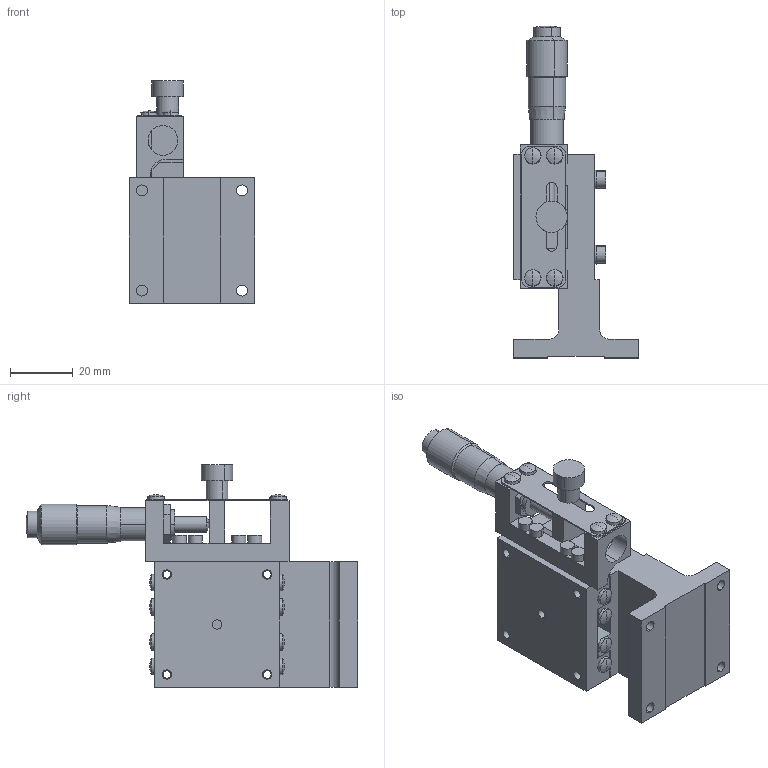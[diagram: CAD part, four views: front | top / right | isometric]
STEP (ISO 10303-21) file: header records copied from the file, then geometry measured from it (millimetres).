
FILE_DESCRIPTION (( 'STEP AP214' ), '1' );
FILE_NAME ('LZ‐4041‐S1‐2.STEP', '2007-08-28T12:25:57', ( '' ), ( '' ), 'SwSTEP 2.0', 'SolidWorks 2006303', '' );
FILE_SCHEMA (( 'AUTOMOTIVE_DESIGN' ));
Length unit declared in the file: millimetre
Products named in the file (3): LZ40S120－2_ﾃﾞﾌｫﾙﾄ; LZ‐4041‐S1‐2; LZ40S120－1_ﾃﾞﾌｫﾙﾄ
Assembly tree (2 placements, depth 2):
  LZ‐4041‐S1‐2
    LZ40S120－1_ﾃﾞﾌｫﾙﾄ
    LZ40S120－2_ﾃﾞﾌｫﾙﾄ
Bounding box: 40 x 106 x 71 mm (x, y, z)
Volume: 67245.6 mm3; surface area: 28883.3 mm2
Topology: 3 solids, 9 shells, 364 faces, 861 edges, 550 vertices
Faces by surface type: plane 155, cylinder 151, cone 30, sphere 26, torus 2
Entity records: 10712 total; most frequent: DIRECTION 2011, CARTESIAN_POINT 1778, ORIENTED_EDGE 1718, EDGE_CURVE 859, AXIS2_PLACEMENT_3D 783, VERTEX_POINT 550, EDGE_LOOP 449, LINE 445
